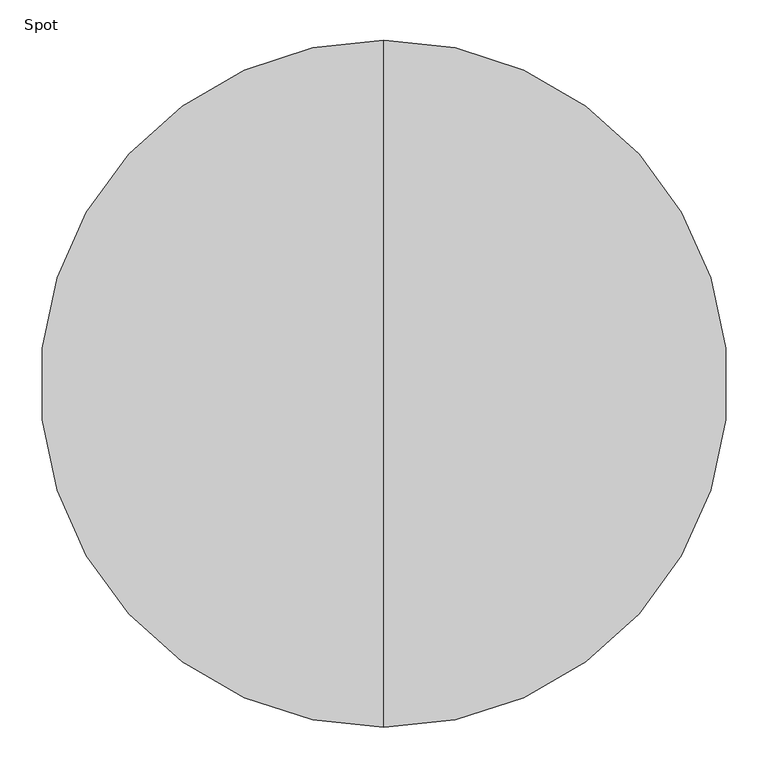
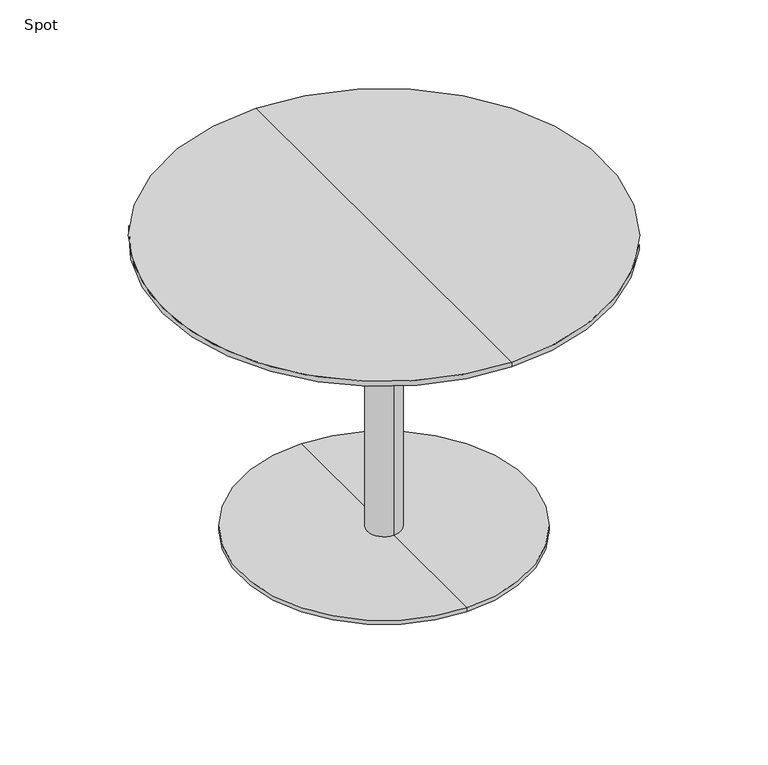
"""IFC4 building model written with IfcOpenShell, lengths in millimetres: furniture geometry, Spot : ø85x60."""

import ifcopenshell
import ifcopenshell.guid

model = None  # the IFC model being written
_history = None  # IfcOwnerHistory: only IFC2X3 demands one
_inside = {}  # id of a spatial element -> (the spatial element, [elements in it])
_under = {}  # id of a project, library or spatial element -> (it, [spatial elements below it])
_declared = {}  # id of a project -> (the project, [libraries it declares])
_typed = {}  # id of a type object -> (the type object, [elements of that type])
_made_of = {}  # id of a material, layer set ... -> (it, [elements and type objects made of it])


def new_model(schema):
    """Start an empty IFC model of exactly this schema.

    Asked for "IFC4X3", IfcOpenShell would pick the latest addendum, in which some entities
    have other attributes; the version numbers below select the first issue.
    IFC2X3 requires an IfcOwnerHistory on every rooted entity: one is made here for all.
    """
    global model, _history
    if schema == "IFC4X3":
        model = ifcopenshell.file(schema_version=(4, 3, 0, 0))
    else:
        model = ifcopenshell.file(schema=schema)
    _inside.clear()
    _under.clear()
    _declared.clear()
    _typed.clear()
    _made_of.clear()
    _history = None
    if model.schema == "IFC2X3":
        org = make("IfcOrganization", Name="unknown")
        user = make(
            "IfcPersonAndOrganization",
            ThePerson=make("IfcPerson", FamilyName="unknown"),
            TheOrganization=org,
        )
        app = make(
            "IfcApplication",
            ApplicationDeveloper=org,
            Version="unknown",
            ApplicationFullName="unknown",
            ApplicationIdentifier="unknown",
        )
        _history = make(
            "IfcOwnerHistory",
            OwningUser=user,
            OwningApplication=app,
            ChangeAction="ADDED",
            CreationDate=0,
        )
    return model


def make(cls, **values):
    """One entity of the class cls with the attributes given. An attribute that is None is left unset."""
    return model.create_entity(
        cls, **{name: value for name, value in values.items() if value is not None}
    )


def rooted(cls, **values):
    """An entity with a GlobalId (a new one), such as an element, a storey or a relation."""
    return make(cls, GlobalId=ifcopenshell.guid.new(), OwnerHistory=_history, **values)


def si_unit(unit_type, name, prefix=None):
    """IfcSIUnit, for example si_unit("LENGTHUNIT", "METRE", prefix="MILLI")."""
    return make("IfcSIUnit", UnitType=unit_type, Prefix=prefix, Name=name)


def assignment(units):
    """IfcUnitAssignment: the units of a project."""
    return None if units is None else make("IfcUnitAssignment", Units=units)


def point(xyz):
    """IfcCartesianPoint."""
    return None if xyz is None else make("IfcCartesianPoint", Coordinates=xyz)


def direction(xyz):
    """IfcDirection."""
    return None if xyz is None else make("IfcDirection", DirectionRatios=xyz)


def frame(location, z_axis=None, x_axis=None):
    """IfcAxis2Placement3D, a coordinate frame: its origin and axes. An axis left out is left unset."""
    return make(
        "IfcAxis2Placement3D",
        Location=point(location),
        Axis=direction(z_axis),
        RefDirection=direction(x_axis),
    )


def origin():
    """The frame at (0, 0, 0) with its axes left unset."""
    return frame((0.0, 0.0, 0.0))


def place(relative_to, where):
    """IfcLocalPlacement: puts the frame where relative to a parent placement (None: the world)."""
    return make(
        "IfcLocalPlacement", PlacementRelTo=relative_to, RelativePlacement=where
    )


def context(
    kind, dimensions, precision=None, world=None, true_north=None, identifier=None
):
    """IfcGeometricRepresentationContext, for example the 3D "Model" context."""
    return make(
        "IfcGeometricRepresentationContext",
        ContextIdentifier=identifier,
        ContextType=kind,
        CoordinateSpaceDimension=dimensions,
        Precision=precision,
        WorldCoordinateSystem=world,
        TrueNorth=true_north,
    )


def project(units=None, contexts=None):
    """IfcProject with its units and contexts."""
    return rooted(
        "IfcProject",
        Name="project",
        RepresentationContexts=contexts,
        UnitsInContext=assignment(units),
    )


def spatial(cls, under=None, at=None, **own):
    """A site, building, storey or space (cls), placed at a placement, below another one or the project."""
    s = rooted(cls, ObjectPlacement=at, **own)
    if under is not None:
        _under.setdefault(under.id(), (under, []))[1].append(s)
    return s


def polyline(points):
    """IfcPolyline through the points."""
    return make("IfcPolyline", Points=[point(p) for p in points])


def circle_curve(where, radius):
    """IfcCircle in the frame where."""
    return make("IfcCircle", Position=where, Radius=radius)


def shape(context_of_items, identifier, shape_type, items):
    """IfcShapeRepresentation: the items that make up one representation, for example the "Body"."""
    return make(
        "IfcShapeRepresentation",
        ContextOfItems=context_of_items,
        RepresentationIdentifier=identifier,
        RepresentationType=shape_type,
        Items=items,
    )


def source(mapping_origin, context_of_items, identifier, shape_type, items):
    """IfcRepresentationMap: a shape defined once, which mapped items show again and again."""
    return make(
        "IfcRepresentationMap",
        MappingOrigin=mapping_origin,
        MappedRepresentation=shape(context_of_items, identifier, shape_type, items),
    )


def transform(
    local_origin,
    x_axis=None,
    y_axis=None,
    z_axis=None,
    scale=None,
    scale2=None,
    scale3=None,
    uniform=True,
):
    """IfcCartesianTransformationOperator3D, or its non-uniform kind. x_axis, y_axis, z_axis: its Axis1, 2, 3."""
    if uniform:
        return make(
            "IfcCartesianTransformationOperator3D",
            Axis1=direction(x_axis),
            Axis2=direction(y_axis),
            LocalOrigin=point(local_origin),
            Scale=scale,
            Axis3=direction(z_axis),
        )
    return make(
        "IfcCartesianTransformationOperator3DnonUniform",
        Axis1=direction(x_axis),
        Axis2=direction(y_axis),
        LocalOrigin=point(local_origin),
        Scale=scale,
        Axis3=direction(z_axis),
        Scale2=scale2,
        Scale3=scale3,
    )


def mapped(mapping_source, mapping_target):
    """IfcMappedItem: shows the shape of a source again, moved by a transform."""
    return make(
        "IfcMappedItem", MappingSource=mapping_source, MappingTarget=mapping_target
    )


def made_of(thing, what):
    """Note that an element or type object is made of a material, layer set ...; save() writes the relation."""
    if what is not None:
        _made_of.setdefault(what.id(), (what, []))[1].append(thing)
    return thing


def element(
    cls,
    number,
    at=None,
    inside=None,
    cuts=None,
    type_object=None,
    material=None,
    context=None,
    identifier="Body",
    shape_type=None,
    held_by="IfcProductDefinitionShape",
    body=None,
    shapes=None,
    **own,
):
    """One element of the class cls, such as IfcWall. Its Tag is "e" and its number.

    at: its placement. inside: the storey or other place that contains it. cuts: it is an
    opening in that element (IfcRelVoidsElement). A single representation is given by context,
    identifier, shape_type and body (its items); several are given by shapes. held_by: the class
    of the entity that holds the representations. save() writes the other relations.
    """
    e = rooted(cls, Tag="e%d" % number, ObjectPlacement=at, **own)
    if body is not None:
        shapes = [shape(context, identifier, shape_type, body)]
    if shapes is not None:
        e.Representation = make(held_by, Representations=shapes)
    if inside is not None:
        _inside.setdefault(inside.id(), (inside, []))[1].append(e)
    if cuts is not None:
        rooted(
            "IfcRelVoidsElement", RelatingBuildingElement=cuts, RelatedOpeningElement=e
        )
    if type_object is not None:
        _typed.setdefault(type_object.id(), (type_object, []))[1].append(e)
    return made_of(e, material)


def aggregate(whole, parts):
    """IfcRelAggregates: a whole, such as a stair, and the parts it consists of."""
    return rooted("IfcRelAggregates", RelatingObject=whole, RelatedObjects=parts)


def save(model, path):
    """Write the relations noted so far, then the file.

    IfcRelAggregates (storeys below a building ...), IfcRelContainedInSpatialStructure (elements
    in a storey), IfcRelDefinesByType, IfcRelAssociatesMaterial and IfcRelDeclares: one each for
    every whole, place, type object, material and project.
    """
    for whole, parts in _under.values():
        aggregate(whole, parts)
    for where, things in _inside.values():
        rooted(
            "IfcRelContainedInSpatialStructure",
            RelatedElements=things,
            RelatingStructure=where,
        )
    for kind, things in _typed.values():
        rooted("IfcRelDefinesByType", RelatedObjects=things, RelatingType=kind)
    for what, things in _made_of.values():
        rooted("IfcRelAssociatesMaterial", RelatedObjects=things, RelatingMaterial=what)
    for by, libraries in _declared.values():
        rooted("IfcRelDeclares", RelatingContext=by, RelatedDefinitions=libraries)
    model.write(path)


def plane_surface(at):
    """IfcPlane: the flat surface through the origin of the frame at, square to its z axis."""
    return make("IfcPlane", Position=at)


def cylinder_surface(at, radius):
    """IfcCylindricalSurface: all points at the distance radius from the z axis of the frame at."""
    return make("IfcCylindricalSurface", Position=at, Radius=radius)


def revolved_surface(curve, axis_point, axis_direction):
    """IfcSurfaceOfRevolution: the curve turned about the line through axis_point along axis_direction."""
    return make(
        "IfcSurfaceOfRevolution",
        SweptCurve=make("IfcArbitraryOpenProfileDef", ProfileType="CURVE", Curve=curve),
        AxisPosition=make("IfcAxis1Placement", Location=point(axis_point), Axis=direction(axis_direction)),
    )


def advanced_brep(points, edges, surfaces, faces):
    """IfcAdvancedBrep: a solid bounded by faces that lie on surfaces and meet in shared edges.

    An edge is (start, end): straight between two places in points (the first is 0);
    or (start, end, curve); or (start, end, curve, False) where it runs against its curve.
    A face is (place in surfaces, loops), or (place, loops, False) where it looks against
    its surface's normal. A loop lists edges by number (the first is 1), with a minus sign
    where the edge is run from its end to its start. The first loop is the outer one.
    """
    corners = [point(p) for p in points]
    vertices = [make("IfcVertexPoint", VertexGeometry=c) for c in corners]
    made = []
    for start, end, *more in edges:
        made.append(
            make(
                "IfcEdgeCurve",
                EdgeStart=vertices[start],
                EdgeEnd=vertices[end],
                EdgeGeometry=more[0] if more else make("IfcPolyline", Points=[corners[start], corners[end]]),
                SameSense=more[1] if len(more) > 1 else True,
            )
        )
    hull = []
    for where, loops, *sense in faces:
        bounds = []
        for j, loop in enumerate(loops):
            ring = [make("IfcOrientedEdge", EdgeElement=made[abs(k) - 1], Orientation=k > 0) for k in loop]
            bounds.append(
                make(
                    "IfcFaceOuterBound" if j == 0 else "IfcFaceBound",
                    Bound=make("IfcEdgeLoop", EdgeList=ring),
                    Orientation=True,
                )
            )
        hull.append(make("IfcAdvancedFace", Bounds=bounds, FaceSurface=surfaces[where], SameSense=sense[0] if sense else True))
    return make("IfcAdvancedBrep", Outer=make("IfcClosedShell", CfsFaces=hull))


def spot_94203717(model_context):
    return source(origin(), model_context, "Body", "AdvancedBrep", [
        advanced_brep(
        [(0.0, -425.0, 600.0), (0.0, 425.0, 600.0), (0.0, 0.0, 600.0), (0.0, 425.0, 590.25), (0.0, -425.0, 590.25), (0.0, 0.0, 578.0), (0.0, -379.2823776, 578.0), (0.0, 379.2823776, 578.0)],
        [
            (0, 1, circle_curve(frame((0.0, 0.0, 600.0), z_axis=(0.0, 0.0, 1.0), x_axis=(0.0, -1.0, 0.0)), 425.0)),
            (1, 2),
            (2, 0),
            (3, 4, circle_curve(frame((0.0, 0.0, 590.25), z_axis=(0.0, 0.0, 1.0), x_axis=(0.0, -1.0, 0.0)), 425.0)),
            (4, 0),
            (0, 1, circle_curve(frame((0.0, 0.0, 600.0), z_axis=(0.0, 0.0, -1.0), x_axis=(0.0, -1.0, 0.0)), 425.0)),
            (1, 3),
            (5, 6),
            (6, 7, circle_curve(frame((0.0, 0.0, 578.0), z_axis=(0.0, 0.0, -1.0), x_axis=(0.0, -1.0, 0.0)), 379.2823776)),
            (7, 5),
            (7, 6, circle_curve(frame((0.0, 0.0, 578.0), z_axis=(0.0, 0.0, -1.0), x_axis=(0.0, -1.0, 0.0)), 379.2823776)),
            (4, 3, circle_curve(frame((0.0, 0.0, 590.25), z_axis=(0.0, 0.0, 1.0), x_axis=(0.0, -1.0, 0.0)), 425.0)),
            (6, 4),
            (3, 7),
        ],
        [
            plane_surface(frame((0.0, 0.0, 600.0), z_axis=(0.0, 0.0, 1.0), x_axis=(0.0, -1.0, 0.0))),
            cylinder_surface(frame((0.0, 0.0, 680.0), z_axis=(0.0, 0.0, -1.0), x_axis=(0.0, -1.0, 0.0)), 425.0),
            plane_surface(frame((0.0, 0.0, 578.0), z_axis=(0.0, 0.0, -1.0), x_axis=(0.0, -1.0, 0.0))),
            revolved_surface(polyline([(0.0, -425.0, 590.25), (0.0, -379.2823776, 578.0)]), (0.0, 0.0, 680.0), (0.0, 0.0, -1.0)),
        ],
        [
            (0, [[1, 2, 3]]),
            (1, [[4, 5, 6, 7]]),
            (2, [[8, 9, 10]]),
            (2, [[-10, 11, -8]]),
            (0, [[-6, -3, -2]]),
            (1, [[12, -7, -1, -5]]),
            (3, [[-9, 13, -4, 14]]),
            (3, [[-11, -14, -12, -13]]),
        ],
    ),
        advanced_brep(
        [(0.0, 32.0, 10.0), (0.0, -32.0, 10.0), (0.0, -32.0, 547.406916), (0.0, 32.0, 547.406916), (0.0, 275.0, 10.0), (0.0, -275.0, 10.0), (0.0, 275.0, 2.0), (0.0, -275.0, 2.0), (0.0, 0.0, 2.0), (0.0, 150.0, 578.0), (0.0, -150.0, 578.0), (0.0, 0.0, 578.0), (0.0, 150.0, 566.7213673), (0.0, -150.0, 566.7213673)],
        [
            (0, 1, circle_curve(frame((0.0, 0.0, 10.0), z_axis=(0.0, 0.0, 1.0), x_axis=(0.0, -1.0, 0.0)), 32.0)),
            (1, 2),
            (2, 3, circle_curve(frame((0.0, 0.0, 547.406916), z_axis=(0.0, 0.0, -1.0), x_axis=(0.0, -1.0, 0.0)), 32.0)),
            (3, 0),
            (1, 0, circle_curve(frame((0.0, 0.0, 10.0), z_axis=(0.0, 0.0, 1.0), x_axis=(0.0, -1.0, 0.0)), 32.0)),
            (3, 2, circle_curve(frame((0.0, 0.0, 547.406916), z_axis=(0.0, 0.0, -1.0), x_axis=(0.0, -1.0, 0.0)), 32.0)),
            (4, 5, circle_curve(frame((0.0, 0.0, 10.0), z_axis=(0.0, 0.0, 1.0), x_axis=(0.0, -1.0, 0.0)), 275.0)),
            (5, 1),
            (0, 4),
            (5, 4, circle_curve(frame((0.0, 0.0, 10.0), z_axis=(0.0, 0.0, 1.0), x_axis=(0.0, -1.0, 0.0)), 275.0)),
            (6, 7, circle_curve(frame((0.0, 0.0, 2.0), z_axis=(0.0, 0.0, 1.0), x_axis=(0.0, -1.0, 0.0)), 275.0)),
            (7, 5),
            (4, 6),
            (7, 6, circle_curve(frame((0.0, 0.0, 2.0), z_axis=(0.0, 0.0, 1.0), x_axis=(0.0, -1.0, 0.0)), 275.0)),
            (8, 7),
            (6, 8),
            (9, 10, circle_curve(frame((0.0, 0.0, 578.0), z_axis=(0.0, 0.0, 1.0), x_axis=(0.0, -1.0, 0.0)), 150.0)),
            (10, 11),
            (11, 9),
            (10, 9, circle_curve(frame((0.0, 0.0, 578.0), z_axis=(0.0, 0.0, 1.0), x_axis=(0.0, -1.0, 0.0)), 150.0)),
            (12, 13, circle_curve(frame((0.0, 0.0, 566.7213673), z_axis=(0.0, 0.0, 1.0), x_axis=(0.0, -1.0, 0.0)), 150.0)),
            (13, 10),
            (9, 12),
            (13, 12, circle_curve(frame((0.0, 0.0, 566.7213673), z_axis=(0.0, 0.0, 1.0), x_axis=(0.0, -1.0, 0.0)), 150.0)),
            (2, 13),
            (12, 3),
        ],
        [
            cylinder_surface(frame((0.0, 0.0, 940.0), z_axis=(0.0, 0.0, -1.0), x_axis=(0.0, -1.0, 0.0)), 32.0),
            plane_surface(frame((0.0, 0.0, 10.0), z_axis=(0.0, 0.0, 1.0), x_axis=(0.0, -1.0, 0.0))),
            cylinder_surface(frame((0.0, 0.0, 940.0), z_axis=(0.0, 0.0, -1.0), x_axis=(0.0, -1.0, 0.0)), 275.0),
            plane_surface(frame((0.0, 0.0, 2.0), z_axis=(0.0, 0.0, -1.0), x_axis=(0.0, -1.0, 0.0))),
            plane_surface(frame((0.0, 0.0, 578.0), z_axis=(0.0, 0.0, 1.0), x_axis=(0.0, -1.0, 0.0))),
            cylinder_surface(frame((0.0, 0.0, 940.0), z_axis=(0.0, 0.0, -1.0), x_axis=(0.0, -1.0, 0.0)), 150.0),
            revolved_surface(polyline([(0.0, -150.0, 566.7213673), (0.0, -32.0, 547.406916)]), (0.0, 0.0, 940.0), (0.0, 0.0, -1.0)),
        ],
        [
            (0, [[1, 2, 3, 4]]),
            (0, [[5, -4, 6, -2]]),
            (1, [[7, 8, -1, 9]]),
            (1, [[10, -9, -5, -8]]),
            (2, [[11, 12, -7, 13]]),
            (2, [[14, -13, -10, -12]]),
            (3, [[15, -11, 16]]),
            (3, [[-16, -14, -15]]),
            (4, [[17, 18, 19]]),
            (4, [[20, -19, -18]]),
            (5, [[21, 22, -17, 23]]),
            (5, [[24, -23, -20, -22]]),
            (6, [[-3, 25, -21, 26]]),
            (6, [[-6, -26, -24, -25]]),
        ],
    ),
    ])


if __name__ == "__main__":
    model = new_model("IFC4")
    model_context = context("Model", 3, world=origin())
    ifc_project = project(units=[si_unit("LENGTHUNIT", "METRE", prefix="MILLI")], contexts=[model_context])
    site = spatial("IfcSite", under=ifc_project)
    building = spatial("IfcBuilding", under=site)
    placement = place(None, origin())
    spot_shape = spot_94203717(model_context)
    element("IfcFurniture", 1, ObjectType="Spot : ø85x60", at=placement, inside=building, context=model_context, shape_type="MappedRepresentation", body=[
        mapped(spot_shape, transform((0.0, 0.0, 0.0), x_axis=(1.0, 0.0, 0.0), y_axis=(0.0, 1.0, 0.0), z_axis=(0.0, 0.0, 1.0))),
    ])
    save(model, "model.ifc")
